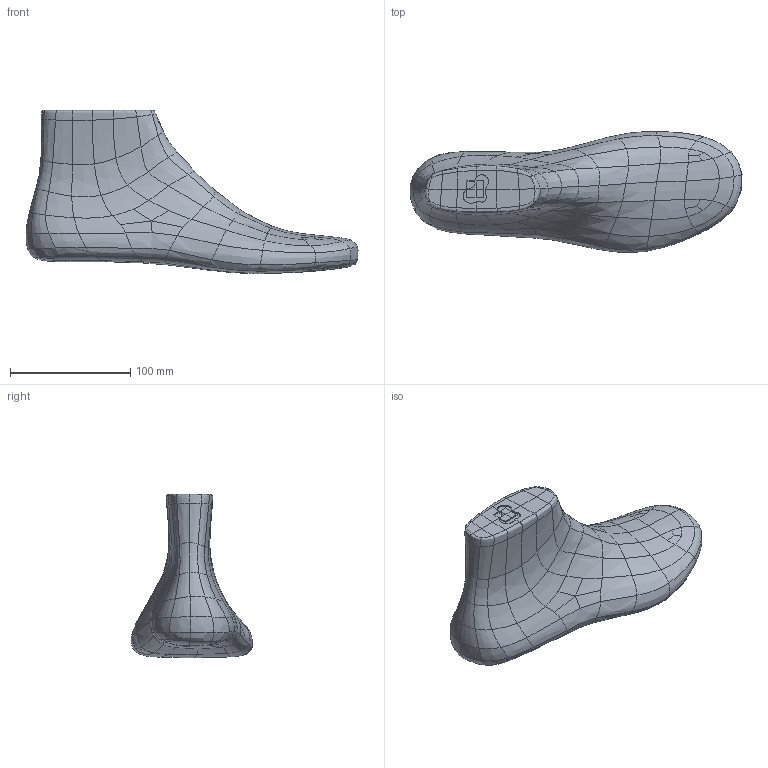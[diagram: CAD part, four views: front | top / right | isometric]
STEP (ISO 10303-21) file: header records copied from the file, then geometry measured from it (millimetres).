
FILE_DESCRIPTION(/* description */ (''),/* implementation_level */ '2;1');
FILE_NAME(License: CC BY-NC-ND 4.0 Statement: This work is licensed under a Creative Commons Attribution-NonCommercial-NoDerivatives 4.0 International License. Link: https://creativecommons.org/licenses/by-nc-nd/4.0/);
FILE_SCHEMA (('CONFIG_CONTROL_DESIGN'));
Length unit declared in the file: millimetre
Products named in the file (1): Document
Bounding box: 276.31 x 100.92 x 135.88 mm (x, y, z)
Volume: 1098269.2 mm3; surface area: 77505.8 mm2
Topology: 1 solids, 1 shells, 235 faces, 496 edges, 264 vertices
Faces by surface type: bspline 211, plane 24
Entity records: 14977 total; most frequent: CARTESIAN_POINT 11653, ORIENTED_EDGE 992, EDGE_CURVE 496, B_SPLINE_CURVE_WITH_KNOTS 496, VERTEX_POINT 264, EDGE_LOOP 236, ADVANCED_FACE 235, FACE_OUTER_BOUND 235
